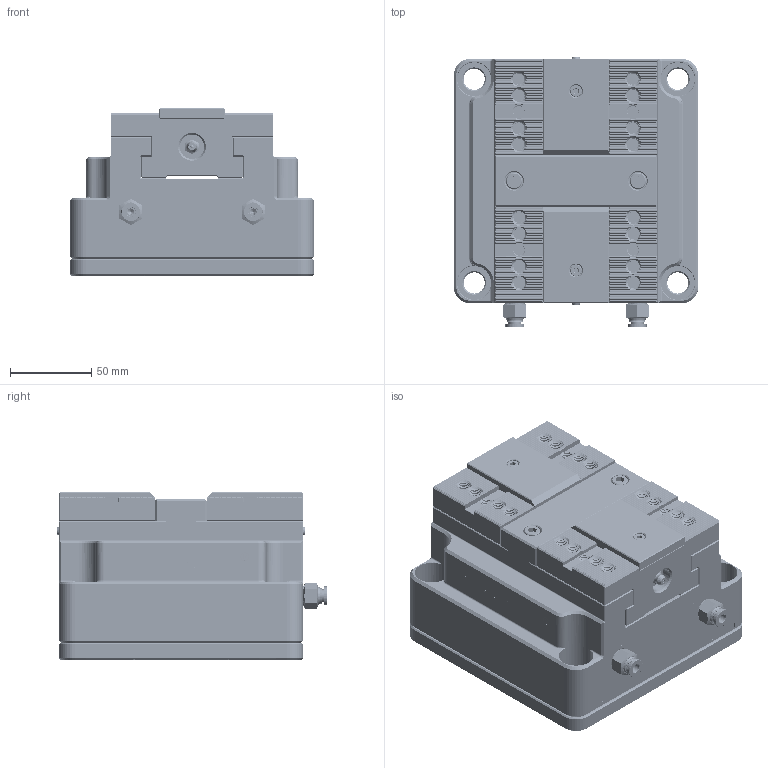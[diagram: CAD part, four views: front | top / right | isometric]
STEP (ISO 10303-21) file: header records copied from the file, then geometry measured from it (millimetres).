
FILE_DESCRIPTION(/* description */ (''),/* implementation_level */ '2;1');
FILE_NAME(/* name */ 'KSP2-100.stp',/* time_stamp */ '2024-12-13T18:50:19+08:00',/* author */ (''),/* organization */ (''),/* preprocessor_version */ 'ST-DEVELOPER v20',/* originating_system */ 'SIEMENS PLM Software NX2312.1700',/* authorisation */ '');
FILE_SCHEMA (('AUTOMOTIVE_DESIGN { 1 0 10303 214 3 1 1 1 }'));
Products named in the file (1): KSP2-100外用1_objects
Bounding box: 150 x 165.77 x 102.5 mm (x, y, z)
Volume: 1821552 mm3; surface area: 266520.5 mm2
Topology: 18 solids, 20 shells, 3003 faces, 8287 edges, 5428 vertices
Faces by surface type: plane 1745, cylinder 694, cone 209, extrusion 194, bspline 110, revolution 30, torus 17, sphere 4
Full cylindrical faces by diameter (mm): 2 x2, 2.4 x2, 2.5 x9, 2.6 x2, 3 x6, 3.4 x22, 4.3 x10, 4.5 x2, 5.1 x16, 5.5 x8, 5.8 x2, 6 x4, 6.5 x4, 6.8 x20, 7 x2, 7.5 x2, 8 x8, 9 x9, 9.7 x4, 10 x2, 11 x6, 11.7 x2, 13 x4, 13.5 x4, 15 x2, 21 x4, 137 x1, 142.6 x1
Entity records: 208858 total; most frequent: CARTESIAN_POINT 129069, ORIENTED_EDGE 15420, DIRECTION 11948, EDGE_CURVE 7710, VERTEX_POINT 5196, VECTOR 4534, LINE 4340, AXIS2_PLACEMENT_3D 3692
